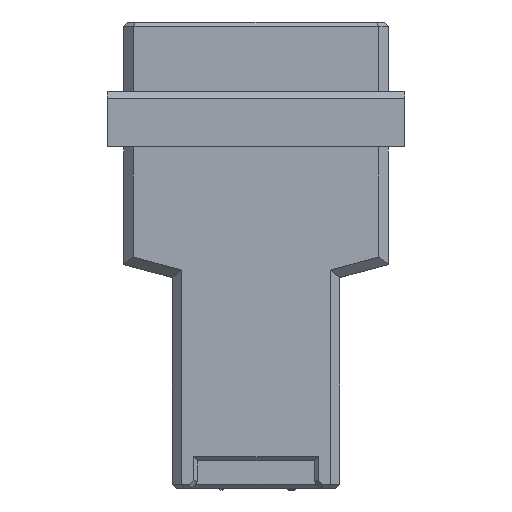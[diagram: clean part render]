
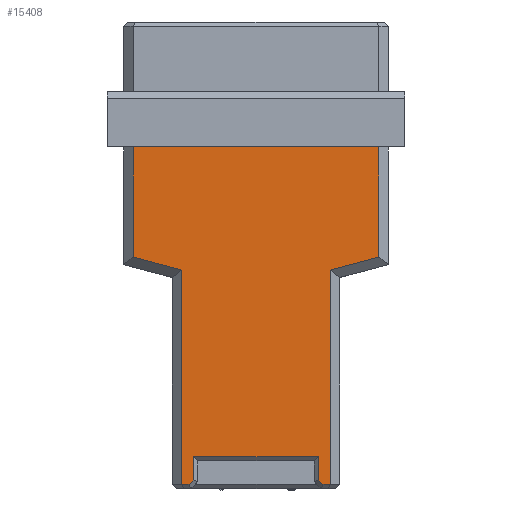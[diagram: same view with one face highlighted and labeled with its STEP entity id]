
A CAD part, front view. The second image highlights one B-rep face of the part: STEP entity #15408.
In plain terms, the highlighted planar face has unit normal (0, -1, 0).
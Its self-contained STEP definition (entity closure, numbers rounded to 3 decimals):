
#203 = CARTESIAN_POINT ( 'NONE',  ( 8.84, -4.675, -16.925 ) ) ;
#379 = CARTESIAN_POINT ( 'NONE',  ( 4.912, -4.675, -33.388 ) ) ;
#685 = VERTEX_POINT ( 'NONE', #10521 ) ;
#691 = EDGE_CURVE ( 'NONE', #14103, #15892, #4062, .T. ) ;
#754 = LINE ( 'NONE', #9863, #3517 ) ;
#875 = EDGE_LOOP ( 'NONE', ( #9922, #16655, #11888, #2958, #10715, #4285, #13562, #3420, #1564, #4566, #6898, #2650, #14603, #11115 ) ) ;
#890 = EDGE_CURVE ( 'NONE', #9777, #2146, #1570, .T. ) ;
#1243 = VECTOR ( 'NONE', #6868, 1000. ) ;
#1564 = ORIENTED_EDGE ( 'NONE', *, *, #13761, .T. ) ;
#1570 = LINE ( 'NONE', #11611, #9820 ) ;
#1650 = CARTESIAN_POINT ( 'NONE',  ( -5.34, -4.675, -18.4 ) ) ;
#1995 = LINE ( 'NONE', #5819, #6349 ) ;
#2146 = VERTEX_POINT ( 'NONE', #11582 ) ;
#2468 = VERTEX_POINT ( 'NONE', #13868 ) ;
#2650 = ORIENTED_EDGE ( 'NONE', *, *, #890, .T. ) ;
#2691 = DIRECTION ( 'NONE',  ( 0.707, 0., -0.707 ) ) ;
#2738 = CARTESIAN_POINT ( 'NONE',  ( 5.34, -4.675, -17.863 ) ) ;
#2815 = LINE ( 'NONE', #5695, #10578 ) ;
#2838 = LINE ( 'NONE', #4031, #12374 ) ;
#2871 = DIRECTION ( 'NONE',  ( 1., 0., 0. ) ) ;
#2958 = ORIENTED_EDGE ( 'NONE', *, *, #7663, .T. ) ;
#3106 = LINE ( 'NONE', #5738, #4725 ) ;
#3407 = FACE_OUTER_BOUND ( 'NONE', #875, .T. ) ;
#3420 = ORIENTED_EDGE ( 'NONE', *, *, #4403, .T. ) ;
#3517 = VECTOR ( 'NONE', #13688, 1000. ) ;
#3947 = VERTEX_POINT ( 'NONE', #7959 ) ;
#4031 = CARTESIAN_POINT ( 'NONE',  ( 5.34, -4.675, -18.4 ) ) ;
#4062 = LINE ( 'NONE', #11883, #6820 ) ;
#4285 = ORIENTED_EDGE ( 'NONE', *, *, #11654, .T. ) ;
#4403 = EDGE_CURVE ( 'NONE', #13141, #7739, #8020, .T. ) ;
#4566 = ORIENTED_EDGE ( 'NONE', *, *, #691, .T. ) ;
#4636 = VECTOR ( 'NONE', #6743, 1000. ) ;
#4725 = VECTOR ( 'NONE', #6922, 1000. ) ;
#4773 = EDGE_CURVE ( 'NONE', #16607, #2468, #13513, .T. ) ;
#5412 = LINE ( 'NONE', #14605, #15202 ) ;
#5420 = CARTESIAN_POINT ( 'NONE',  ( -4.5, -4.675, -32.976 ) ) ;
#5695 = CARTESIAN_POINT ( 'NONE',  ( -4.5, -4.675, -18.4 ) ) ;
#5738 = CARTESIAN_POINT ( 'NONE',  ( -9.124, -4.675, -16.849 ) ) ;
#5819 = CARTESIAN_POINT ( 'NONE',  ( 4.5, -4.675, -18.4 ) ) ;
#6196 = CARTESIAN_POINT ( 'NONE',  ( -9.54, -4.675, -18.4 ) ) ;
#6349 = VECTOR ( 'NONE', #7168, 1000. ) ;
#6743 = DIRECTION ( 'NONE',  ( 1., 0., 0. ) ) ;
#6820 = VECTOR ( 'NONE', #7961, 1000. ) ;
#6868 = DIRECTION ( 'NONE',  ( 1., 0., 0. ) ) ;
#6898 = ORIENTED_EDGE ( 'NONE', *, *, #9786, .T. ) ;
#6922 = DIRECTION ( 'NONE',  ( 0.966, 0., -0.259 ) ) ;
#7083 = VERTEX_POINT ( 'NONE', #14361 ) ;
#7168 = DIRECTION ( 'NONE',  ( 0., 0., -1. ) ) ;
#7188 = CARTESIAN_POINT ( 'NONE',  ( 8.84, -4.675, -18.4 ) ) ;
#7331 = VECTOR ( 'NONE', #13670, 1000. ) ;
#7663 = EDGE_CURVE ( 'NONE', #14507, #3947, #2815, .T. ) ;
#7739 = VERTEX_POINT ( 'NONE', #12332 ) ;
#7813 = EDGE_CURVE ( 'NONE', #2468, #14507, #754, .T. ) ;
#7815 = DIRECTION ( 'NONE',  ( 0., 0., -1. ) ) ;
#7865 = CARTESIAN_POINT ( 'NONE',  ( -9.54, -4.675, -33.3 ) ) ;
#7959 = CARTESIAN_POINT ( 'NONE',  ( -4.5, -4.675, -31.3 ) ) ;
#7961 = DIRECTION ( 'NONE',  ( 0.966, 0., 0.259 ) ) ;
#8020 = LINE ( 'NONE', #7865, #4636 ) ;
#8028 = VERTEX_POINT ( 'NONE', #15690 ) ;
#8107 = DIRECTION ( 'NONE',  ( 0., 0., -1. ) ) ;
#8589 = EDGE_CURVE ( 'NONE', #3947, #14291, #5412, .T. ) ;
#9217 = LINE ( 'NONE', #1650, #12672 ) ;
#9683 = AXIS2_PLACEMENT_3D ( 'NONE', #6196, #11305, #9869 ) ;
#9777 = VERTEX_POINT ( 'NONE', #10008 ) ;
#9786 = EDGE_CURVE ( 'NONE', #15892, #9777, #11118, .T. ) ;
#9820 = VECTOR ( 'NONE', #14255, 1000. ) ;
#9863 = CARTESIAN_POINT ( 'NONE',  ( -4.412, -4.675, -32.888 ) ) ;
#9869 = DIRECTION ( 'NONE',  ( 0., 0., 1. ) ) ;
#9922 = ORIENTED_EDGE ( 'NONE', *, *, #15871, .T. ) ;
#10008 = CARTESIAN_POINT ( 'NONE',  ( 8.84, -4.675, -9. ) ) ;
#10471 = CARTESIAN_POINT ( 'NONE',  ( 4.824, -4.675, -33.3 ) ) ;
#10512 = VECTOR ( 'NONE', #7815, 1000. ) ;
#10521 = CARTESIAN_POINT ( 'NONE',  ( 4.5, -4.675, -32.976 ) ) ;
#10553 = DIRECTION ( 'NONE',  ( 0., 0., 1. ) ) ;
#10578 = VECTOR ( 'NONE', #10553, 1000. ) ;
#10715 = ORIENTED_EDGE ( 'NONE', *, *, #8589, .T. ) ;
#11115 = ORIENTED_EDGE ( 'NONE', *, *, #11556, .T. ) ;
#11118 = LINE ( 'NONE', #7188, #7331 ) ;
#11305 = DIRECTION ( 'NONE',  ( 0., 1., 0. ) ) ;
#11515 = EDGE_CURVE ( 'NONE', #685, #13141, #15782, .T. ) ;
#11556 = EDGE_CURVE ( 'NONE', #8028, #7083, #3106, .T. ) ;
#11582 = CARTESIAN_POINT ( 'NONE',  ( -8.84, -4.675, -9. ) ) ;
#11611 = CARTESIAN_POINT ( 'NONE',  ( -9.54, -4.675, -9. ) ) ;
#11654 = EDGE_CURVE ( 'NONE', #14291, #685, #1995, .T. ) ;
#11735 = LINE ( 'NONE', #14205, #10512 ) ;
#11883 = CARTESIAN_POINT ( 'NONE',  ( -8.678, -4.675, -21.619 ) ) ;
#11888 = ORIENTED_EDGE ( 'NONE', *, *, #7813, .T. ) ;
#12084 = CARTESIAN_POINT ( 'NONE',  ( 4.5, -4.675, -31.3 ) ) ;
#12332 = CARTESIAN_POINT ( 'NONE',  ( 5.34, -4.675, -33.3 ) ) ;
#12374 = VECTOR ( 'NONE', #13299, 1000. ) ;
#12507 = PLANE ( 'NONE',  #9683 ) ;
#12672 = VECTOR ( 'NONE', #8107, 1000. ) ;
#13141 = VERTEX_POINT ( 'NONE', #10471 ) ;
#13299 = DIRECTION ( 'NONE',  ( 0., 0., 1. ) ) ;
#13344 = CARTESIAN_POINT ( 'NONE',  ( -5.34, -4.675, -33.3 ) ) ;
#13513 = LINE ( 'NONE', #15978, #1243 ) ;
#13562 = ORIENTED_EDGE ( 'NONE', *, *, #11515, .T. ) ;
#13670 = DIRECTION ( 'NONE',  ( 0., 0., 1. ) ) ;
#13688 = DIRECTION ( 'NONE',  ( 0.707, 0., 0.707 ) ) ;
#13691 = VECTOR ( 'NONE', #2691, 1000. ) ;
#13761 = EDGE_CURVE ( 'NONE', #7739, #14103, #2838, .T. ) ;
#13868 = CARTESIAN_POINT ( 'NONE',  ( -4.824, -4.675, -33.3 ) ) ;
#14103 = VERTEX_POINT ( 'NONE', #2738 ) ;
#14205 = CARTESIAN_POINT ( 'NONE',  ( -8.84, -4.675, -18.4 ) ) ;
#14255 = DIRECTION ( 'NONE',  ( -1., 0., 0. ) ) ;
#14291 = VERTEX_POINT ( 'NONE', #12084 ) ;
#14361 = CARTESIAN_POINT ( 'NONE',  ( -5.34, -4.675, -17.863 ) ) ;
#14507 = VERTEX_POINT ( 'NONE', #5420 ) ;
#14603 = ORIENTED_EDGE ( 'NONE', *, *, #16452, .T. ) ;
#14605 = CARTESIAN_POINT ( 'NONE',  ( -9.54, -4.675, -31.3 ) ) ;
#15202 = VECTOR ( 'NONE', #2871, 1000. ) ;
#15408 = ADVANCED_FACE ( 'NONE', ( #3407 ), #12507, .F. ) ;
#15690 = CARTESIAN_POINT ( 'NONE',  ( -8.84, -4.675, -16.925 ) ) ;
#15782 = LINE ( 'NONE', #379, #13691 ) ;
#15871 = EDGE_CURVE ( 'NONE', #7083, #16607, #9217, .T. ) ;
#15892 = VERTEX_POINT ( 'NONE', #203 ) ;
#15978 = CARTESIAN_POINT ( 'NONE',  ( -9.54, -4.675, -33.3 ) ) ;
#16452 = EDGE_CURVE ( 'NONE', #2146, #8028, #11735, .T. ) ;
#16607 = VERTEX_POINT ( 'NONE', #13344 ) ;
#16655 = ORIENTED_EDGE ( 'NONE', *, *, #4773, .T. ) ;
